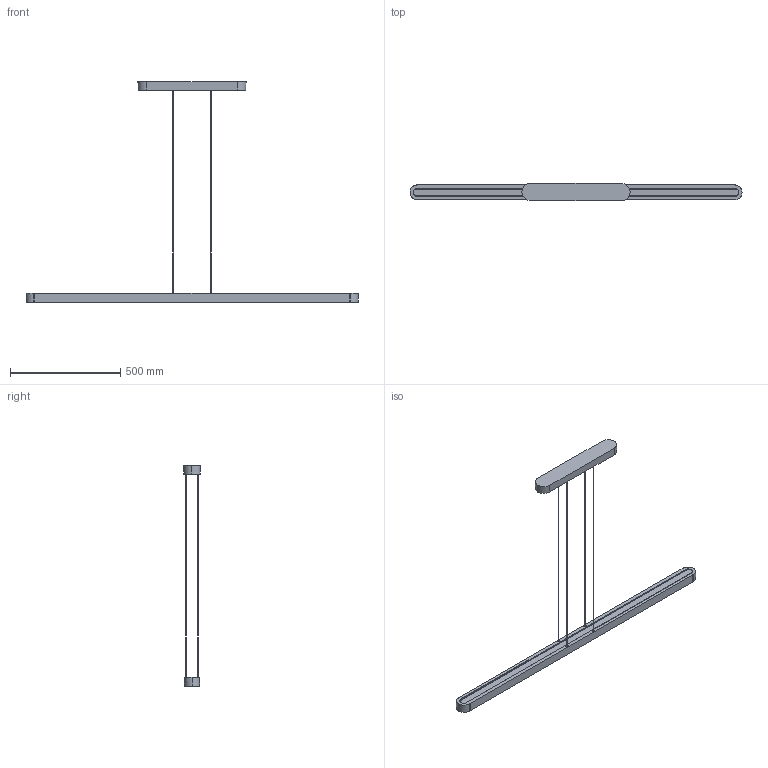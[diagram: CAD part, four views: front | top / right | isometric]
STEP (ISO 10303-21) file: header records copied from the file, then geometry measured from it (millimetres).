
FILE_DESCRIPTION(/* description */ (''),/* implementation_level */ '2;1');
FILE_NAME(/* name */ 'Talo_Sospensione_150_3D',/* time_stamp */ '2012-01-31T14:02:34+01:00',/* author */ (''),/* organization */ (''),/* preprocessor_version */ 'ST-DEVELOPER v10',/* originating_system */ '',/* authorisation */ '');
FILE_SCHEMA (('CONFIG_CONTROL_DESIGN'));
Length unit declared in the file: millimetre
Products named in the file (1): 1
Bounding box: 1505 x 78 x 1000 mm (x, y, z)
Volume: 3910946.7 mm3; surface area: 892493.1 mm2
Topology: 4 solids, 4 shells, 122 faces, 308 edges, 204 vertices
Faces by surface type: bspline 72, plane 50
Entity records: 4036 total; most frequent: CARTESIAN_POINT 2107, ORIENTED_EDGE 616, EDGE_CURVE 308, VERTEX_POINT 204, B_SPLINE_CURVE_WITH_KNOTS 159, EDGE_LOOP 136, ADVANCED_FACE 122, FACE_OUTER_BOUND 122
